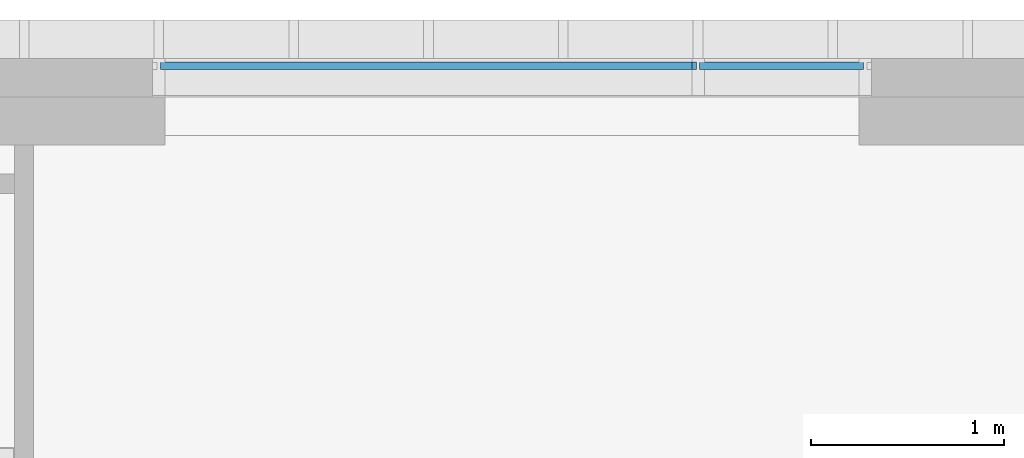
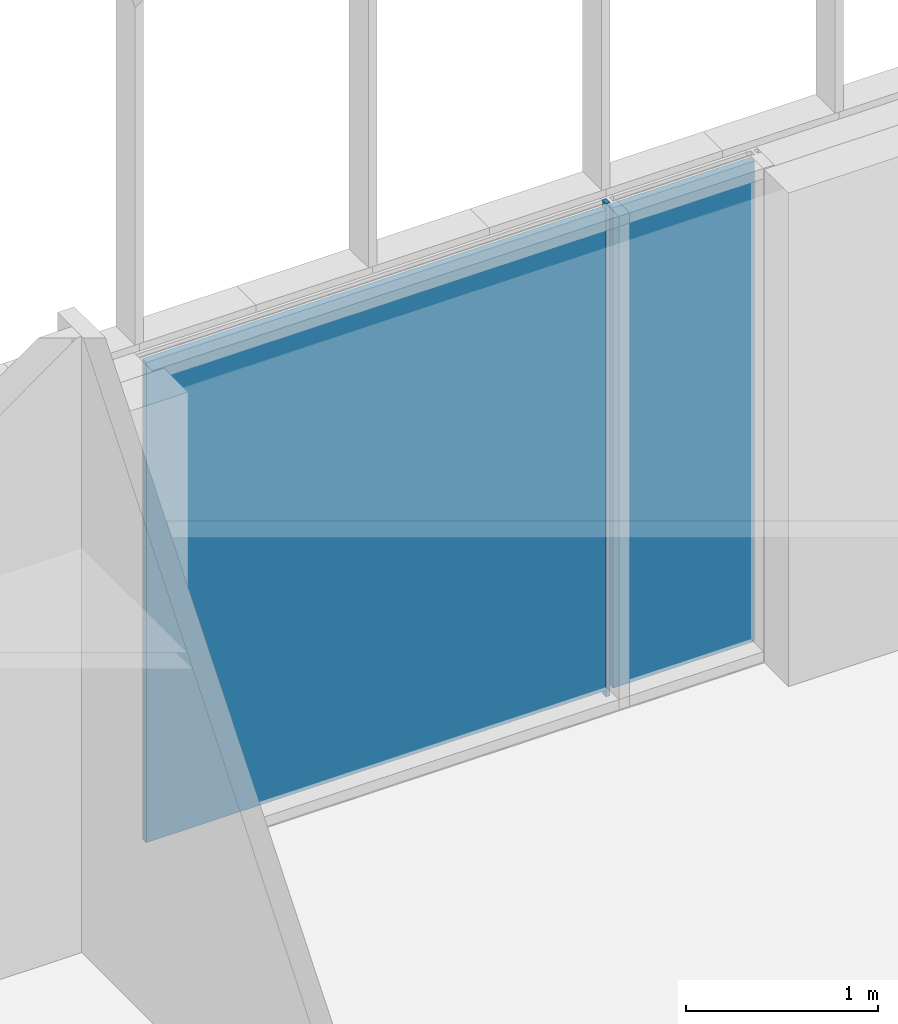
# One storey, part 63 of 240: 3 plates, 2 elements without a shape of their own.
"""IFC2X3 building model written with IfcOpenShell, lengths in centimetres."""

from ifc_helpers import new_model, entity, si_unit, converted_unit, derived_unit, direction, frame, origin, origin_2d_with_axis, place, context, subcontext, project, spatial, rectangle, extrude, source, transform, mapped, material, layer, layer_set, layer_usage, type_object, type_shapes, element, aggregate, save


model = new_model("IFC2X3")

# Units and contexts
model_context = context("Model", 3, precision=0.001, world=origin(), true_north=direction((6.12303176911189e-17, 1.0)))
body_context = subcontext(model_context, "Body", "Model", "MODEL_VIEW")
ifc_project = project(units=[si_unit("LENGTHUNIT", "METRE", prefix="CENTI"), si_unit("AREAUNIT", "SQUARE_METRE"), si_unit("VOLUMEUNIT", "CUBIC_METRE"), converted_unit("PLANEANGLEUNIT", "DEGREE", entity("IfcRatioMeasure", 0.0174532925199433), si_unit("PLANEANGLEUNIT", "RADIAN"), dimensions=[0, 0, 0, 0, 0, 0, 0]), si_unit("MASSUNIT", "GRAM", prefix="KILO"), derived_unit("MASSDENSITYUNIT", [(si_unit("MASSUNIT", "GRAM", prefix="KILO"), 1), (si_unit("LENGTHUNIT", "METRE"), -3)]), si_unit("TIMEUNIT", "SECOND"), si_unit("FREQUENCYUNIT", "HERTZ"), si_unit("THERMODYNAMICTEMPERATUREUNIT", "DEGREE_CELSIUS"), derived_unit("THERMALTRANSMITTANCEUNIT", [(si_unit("MASSUNIT", "GRAM", prefix="KILO"), 1), (si_unit("THERMODYNAMICTEMPERATUREUNIT", "KELVIN"), -1), (si_unit("TIMEUNIT", "SECOND"), -3)]), derived_unit("VOLUMETRICFLOWRATEUNIT", [(si_unit("LENGTHUNIT", "METRE"), 3), (si_unit("TIMEUNIT", "SECOND"), -1)]), si_unit("ELECTRICCURRENTUNIT", "AMPERE"), si_unit("ELECTRICVOLTAGEUNIT", "VOLT"), si_unit("POWERUNIT", "WATT"), si_unit("FORCEUNIT", "NEWTON", prefix="KILO"), si_unit("ILLUMINANCEUNIT", "LUX"), si_unit("LUMINOUSFLUXUNIT", "LUMEN"), si_unit("LUMINOUSINTENSITYUNIT", "CANDELA"), derived_unit("USERDEFINED", [(si_unit("MASSUNIT", "GRAM", prefix="KILO"), -1), (si_unit("LENGTHUNIT", "METRE"), -2), (si_unit("TIMEUNIT", "SECOND"), 3), (si_unit("LUMINOUSFLUXUNIT", "LUMEN"), 1)]), derived_unit("LINEARVELOCITYUNIT", [(si_unit("LENGTHUNIT", "METRE"), 1), (si_unit("TIMEUNIT", "SECOND"), -1)]), si_unit("PRESSUREUNIT", "PASCAL"), derived_unit("USERDEFINED", [(si_unit("LENGTHUNIT", "METRE"), -2), (si_unit("MASSUNIT", "GRAM", prefix="KILO"), 1), (si_unit("TIMEUNIT", "SECOND"), -2)])], contexts=[model_context])

# Site, building, storey
site_placement = place(None, frame((-2781.94577612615, 7442.24238424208, 0.0)))
site = spatial("IfcSite", under=ifc_project, at=site_placement, Name="Default", CompositionType="ELEMENT")
building_placement = place(site_placement, origin())
building = spatial("IfcBuilding", under=site, at=building_placement, CompositionType="ELEMENT")
storey_placement = place(building_placement, origin())
storey = spatial("IfcBuildingStorey", under=building, at=storey_placement, Name="N00 - COO", CompositionType="ELEMENT", Elevation=0.0)

# Curtain wall, plate
curtain_wall_type_1 = type_object("IfcCurtainWallType", Name="Mur-rideau:07 - mur rideau trame 90 cm", PredefinedType="NOTDEFINED")
curtain_wall_1_placement = place(building_placement, origin())
curtain_wall_1 = element("IfcCurtainWall", 1, at=curtain_wall_1_placement, inside=storey, type_object=curtain_wall_type_1, Name="Mur-rideau:07 - mur rideau trame 90 cm", ObjectType="Mur-rideau:07 - mur rideau trame 90 cm")
ifc_material = material(Name="Verre")
ifc_layer = layer(ifc_material, 4.0)
ifc_layer_set = layer_set([ifc_layer], Name="Panneau système:Vitré")
ifc_layer_usage_1 = layer_usage(ifc_layer_set, "AXIS3", "POSITIVE", 0.0)
plate_type_1 = type_object("IfcPlateType", Name="Vitré", PredefinedType="CURTAIN_PANEL", material=ifc_layer_set)
shared_shape_1 = source(origin(), body_context, "Body", "SweptSolid", [
    extrude(rectangle(XDim=4.0, YDim=85.0124999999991, at=origin_2d_with_axis()), frame((0.0, 0.0, 0.0), z_axis=(0.0, 0.0, 1.0), x_axis=(0.0, 1.0, 0.0)), (0.0, 0.0, 1.0), 304.7625),
])
type_shapes(plate_type_1, [shared_shape_1])
plate_1_placement = place(curtain_wall_1_placement, frame((-7806.12487758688, 26.2000000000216, 4.11874999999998)))
plate_1 = element("IfcPlate", 2, at=plate_1_placement, type_object=plate_type_1, material=ifc_layer_usage_1, Name="Panneau système:Vitré", ObjectType="Panneau système:Vitré", context=body_context, shape_type="MappedRepresentation", body=[
    mapped(shared_shape_1, transform((0.0, 0.0, 0.0), scale=1.0)),
])
aggregate(curtain_wall_1, [plate_1])

# Curtain wall, plates
curtain_wall_type_2 = type_object("IfcCurtainWallType", Name="Mur-rideau:07 - mur rideau trame 280 cm", PredefinedType="NOTDEFINED")
curtain_wall_2_placement = place(building_placement, origin())
curtain_wall_2 = element("IfcCurtainWall", 3, at=curtain_wall_2_placement, inside=storey, type_object=curtain_wall_type_2, Name="Mur-rideau:07 - mur rideau trame 280 cm", ObjectType="Mur-rideau:07 - mur rideau trame 280 cm")
ifc_layer_usage_2 = layer_usage(ifc_layer_set, "AXIS3", "POSITIVE", 0.0)
plate_type_2 = type_object("IfcPlateType", Name="Vitré", PredefinedType="CURTAIN_PANEL", material=ifc_layer_set)
shared_shape_2 = source(origin(), body_context, "Body", "SweptSolid", [
    extrude(rectangle(XDim=4.0, YDim=275.88125, at=origin_2d_with_axis()), frame((0.0, 0.0, 0.0), z_axis=(0.0, 0.0, 1.0), x_axis=(0.0, 1.0, 0.0)), (0.0, 0.0, 1.0), 304.7625),
])
type_shapes(plate_type_2, [shared_shape_2])
plate_2_placement = place(curtain_wall_2_placement, frame((-7990.69050258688, 26.200000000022, 4.11874999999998)))
plate_2 = element("IfcPlate", 4, at=plate_2_placement, type_object=plate_type_2, material=ifc_layer_usage_2, Name="Panneau système:Vitré", ObjectType="Panneau système:Vitré", context=body_context, shape_type="MappedRepresentation", body=[
    mapped(shared_shape_2, transform((0.0, 0.0, 0.0), scale=1.0)),
])
ifc_layer_usage_3 = layer_usage(ifc_layer_set, "AXIS3", "POSITIVE", 0.0)
plate_type_3 = type_object("IfcPlateType", Name="Vitré", PredefinedType="CURTAIN_PANEL", material=ifc_layer_set)
shared_shape_3 = source(origin(), body_context, "Body", "SweptSolid", [
    extrude(rectangle(XDim=4.0, YDim=2.38124996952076, at=origin_2d_with_axis()), frame((0.0, 0.0, 0.0), z_axis=(0.0, 0.0, 1.0), x_axis=(0.0, 1.0, 0.0)), (0.0, 0.0, 1.0), 313.0),
])
type_shapes(plate_type_3, [shared_shape_3])
plate_3_placement = place(curtain_wall_2_placement, frame((-7851.55925258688, 26.2000000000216, 0.0)))
plate_3 = element("IfcPlate", 5, at=plate_3_placement, type_object=plate_type_3, material=ifc_layer_usage_3, Name="Panneau système:Vitré", ObjectType="Panneau système:Vitré", context=body_context, shape_type="MappedRepresentation", body=[
    mapped(shared_shape_3, transform((0.0, 0.0, 0.0), scale=1.0)),
])
aggregate(curtain_wall_2, [plate_2, plate_3])

save(model, "model.ifc")
